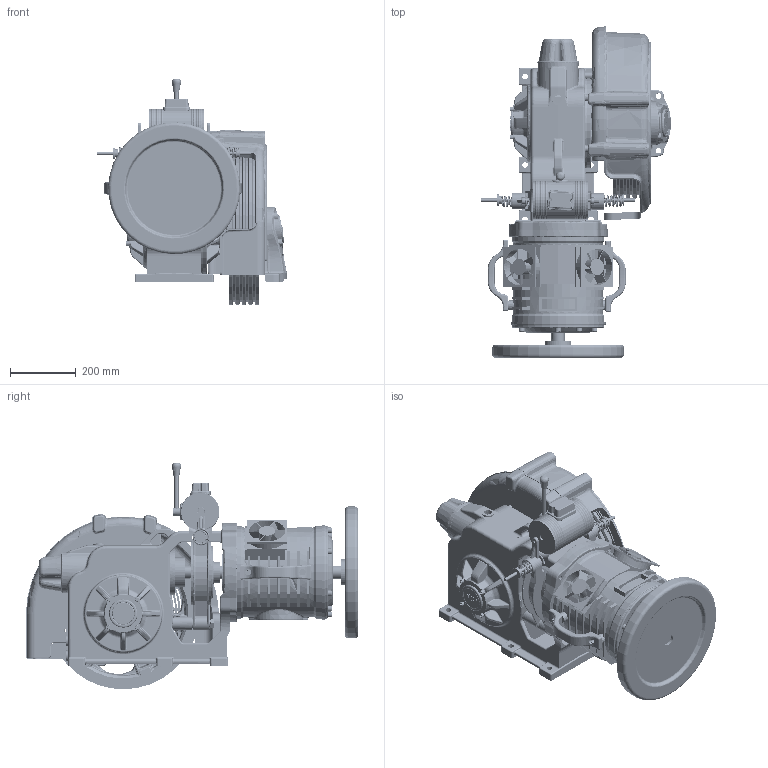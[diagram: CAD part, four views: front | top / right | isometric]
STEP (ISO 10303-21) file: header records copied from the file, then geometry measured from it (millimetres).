
FILE_DESCRIPTION (( 'STEP AP214' ), '1' );
FILE_NAME ('SMC4004021.STEP', '2026-02-02T09:35:41', ( '' ), ( '' ), 'SwSTEP 2.0', 'SolidWorks 2025', '' );
FILE_SCHEMA (( 'AUTOMOTIVE_DESIGN' ));
Length unit declared in the file: millimetre
Products named in the file (1): SMC4004021
Bounding box: 576.66 x 1007.59 x 687.47 mm (x, y, z)
Volume: 62134276 mm3; surface area: 4703038 mm2
Topology: 36 solids, 73 shells, 7302 faces, 17686 edges, 10579 vertices
Faces by surface type: cylinder 2037, plane 1826, bspline 1765, torus 862, cone 632, sphere 180
Entity records: 324863 total; most frequent: CARTESIAN_POINT 167096, ORIENTED_EDGE 35094, DIRECTION 30188, EDGE_CURVE 17547, AXIS2_PLACEMENT_3D 12169, VERTEX_POINT 10579, EDGE_LOOP 7914, ADVANCED_FACE 7301
